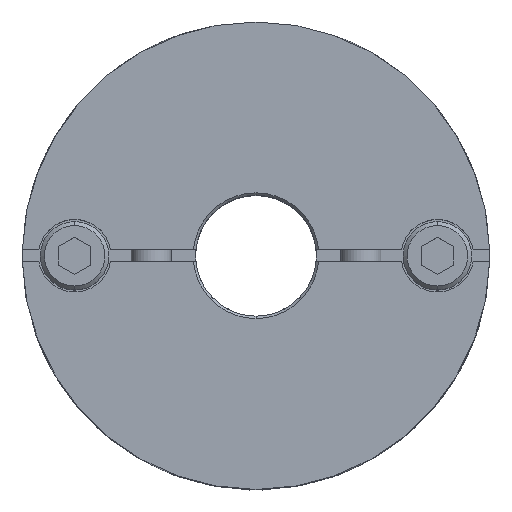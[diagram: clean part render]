
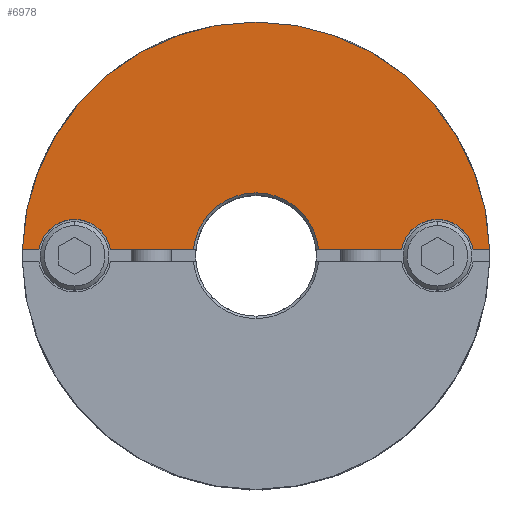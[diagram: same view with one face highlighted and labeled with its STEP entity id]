
A CAD part, top view. The second image highlights one B-rep face of the part: STEP entity #6978.
In plain terms, the highlighted planar face has unit normal (0, 0, 1).
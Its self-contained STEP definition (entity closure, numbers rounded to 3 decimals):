
#605=CARTESIAN_POINT('',(0.,29.,22.4));
#606=VERTEX_POINT('',#605);
#690=CARTESIAN_POINT('',(-28.99,0.75,22.4));
#691=VERTEX_POINT('',#690);
#698=CARTESIAN_POINT('',(0.0,0.,22.4));
#699=DIRECTION('',(0.0,0.0,-1.0));
#700=DIRECTION('',(0.0,1.0,0.0));
#701=AXIS2_PLACEMENT_3D('',#698,#699,#700);
#702=CIRCLE('',#701,29.0);
#703=EDGE_CURVE('',#691,#606,#702,.T.);
#1021=CARTESIAN_POINT('',(0.,7.8,22.4));
#1022=VERTEX_POINT('',#1021);
#1029=CARTESIAN_POINT('',(-7.764,0.75,22.4));
#1030=VERTEX_POINT('',#1029);
#1031=CARTESIAN_POINT('',(0.0,0.,22.4));
#1032=DIRECTION('',(0.0,0.0,1.0));
#1033=DIRECTION('',(0.0,-1.0,0.0));
#1034=AXIS2_PLACEMENT_3D('',#1031,#1032,#1033);
#1035=CIRCLE('',#1034,7.8);
#1036=EDGE_CURVE('',#1022,#1030,#1035,.T.);
#1099=CARTESIAN_POINT('',(-22.5,4.5,22.4));
#1100=VERTEX_POINT('',#1099);
#1109=CARTESIAN_POINT('',(-26.937,0.75,22.4));
#1110=VERTEX_POINT('',#1109);
#1111=CARTESIAN_POINT('',(-22.5,0.,22.4));
#1112=DIRECTION('',(0.0,0.0,-1.0));
#1113=DIRECTION('',(0.0,1.0,0.0));
#1114=AXIS2_PLACEMENT_3D('',#1111,#1112,#1113);
#1115=CIRCLE('',#1114,4.5);
#1116=EDGE_CURVE('',#1110,#1100,#1115,.T.);
#1183=CARTESIAN_POINT('',(22.5,4.5,22.4));
#1184=VERTEX_POINT('',#1183);
#1193=CARTESIAN_POINT('',(18.063,0.75,22.4));
#1194=VERTEX_POINT('',#1193);
#1195=CARTESIAN_POINT('',(22.5,0.,22.4));
#1196=DIRECTION('',(0.0,0.0,-1.0));
#1197=DIRECTION('',(0.0,1.0,0.0));
#1198=AXIS2_PLACEMENT_3D('',#1195,#1196,#1197);
#1199=CIRCLE('',#1198,4.5);
#1200=EDGE_CURVE('',#1194,#1184,#1199,.T.);
#6654=CARTESIAN_POINT('',(26.937,0.75,22.4));
#6655=VERTEX_POINT('',#6654);
#6662=CARTESIAN_POINT('',(22.5,0.,22.4));
#6663=DIRECTION('',(0.0,0.0,-1.0));
#6664=DIRECTION('',(0.0,1.0,0.0));
#6665=AXIS2_PLACEMENT_3D('',#6662,#6663,#6664);
#6666=CIRCLE('',#6665,4.5);
#6667=EDGE_CURVE('',#1184,#6655,#6666,.T.);
#6720=CARTESIAN_POINT('',(-18.063,0.75,22.4));
#6721=VERTEX_POINT('',#6720);
#6728=CARTESIAN_POINT('',(-22.5,0.,22.4));
#6729=DIRECTION('',(0.0,0.0,-1.0));
#6730=DIRECTION('',(0.0,1.0,0.0));
#6731=AXIS2_PLACEMENT_3D('',#6728,#6729,#6730);
#6732=CIRCLE('',#6731,4.5);
#6733=EDGE_CURVE('',#1100,#6721,#6732,.T.);
#6752=CARTESIAN_POINT('',(28.99,0.75,22.4));
#6753=VERTEX_POINT('',#6752);
#6760=CARTESIAN_POINT('',(26.937,0.75,22.4));
#6761=DIRECTION('',(1.0,0.0,0.0));
#6762=VECTOR('',#6761,2.053);
#6763=LINE('',#6760,#6762);
#6764=EDGE_CURVE('',#6655,#6753,#6763,.T.);
#6775=CARTESIAN_POINT('',(7.764,0.75,22.4));
#6776=VERTEX_POINT('',#6775);
#6777=CARTESIAN_POINT('',(7.764,0.75,22.4));
#6778=DIRECTION('',(1.0,0.0,0.0));
#6779=VECTOR('',#6778,10.299);
#6780=LINE('',#6777,#6779);
#6781=EDGE_CURVE('',#6776,#1194,#6780,.T.);
#6937=CARTESIAN_POINT('',(0.,2.636,22.4));
#6938=DIRECTION('',(0.0,0.0,1.0));
#6939=DIRECTION('',(0.0,1.0,0.0));
#6940=AXIS2_PLACEMENT_3D('',#6937,#6938,#6939);
#6941=PLANE('',#6940);
#6942=ORIENTED_EDGE('',*,*,#1200,.T.);
#6943=ORIENTED_EDGE('',*,*,#6667,.T.);
#6944=ORIENTED_EDGE('',*,*,#6764,.T.);
#6945=CARTESIAN_POINT('',(0.0,0.,22.4));
#6946=DIRECTION('',(0.0,0.0,-1.0));
#6947=DIRECTION('',(0.0,1.0,0.0));
#6948=AXIS2_PLACEMENT_3D('',#6945,#6946,#6947);
#6949=CIRCLE('',#6948,29.0);
#6950=EDGE_CURVE('',#606,#6753,#6949,.T.);
#6951=ORIENTED_EDGE('',*,*,#6950,.F.);
#6952=ORIENTED_EDGE('',*,*,#703,.F.);
#6953=CARTESIAN_POINT('',(-28.99,0.75,22.4));
#6954=DIRECTION('',(1.0,0.0,0.0));
#6955=VECTOR('',#6954,2.053);
#6956=LINE('',#6953,#6955);
#6957=EDGE_CURVE('',#691,#1110,#6956,.T.);
#6958=ORIENTED_EDGE('',*,*,#6957,.T.);
#6959=ORIENTED_EDGE('',*,*,#1116,.T.);
#6960=ORIENTED_EDGE('',*,*,#6733,.T.);
#6961=CARTESIAN_POINT('',(-18.063,0.75,22.4));
#6962=DIRECTION('',(1.0,0.0,0.0));
#6963=VECTOR('',#6962,10.299);
#6964=LINE('',#6961,#6963);
#6965=EDGE_CURVE('',#6721,#1030,#6964,.T.);
#6966=ORIENTED_EDGE('',*,*,#6965,.T.);
#6967=ORIENTED_EDGE('',*,*,#1036,.F.);
#6968=CARTESIAN_POINT('',(0.0,0.,22.4));
#6969=DIRECTION('',(0.0,0.0,1.0));
#6970=DIRECTION('',(0.0,-1.0,0.0));
#6971=AXIS2_PLACEMENT_3D('',#6968,#6969,#6970);
#6972=CIRCLE('',#6971,7.8);
#6973=EDGE_CURVE('',#6776,#1022,#6972,.T.);
#6974=ORIENTED_EDGE('',*,*,#6973,.F.);
#6975=ORIENTED_EDGE('',*,*,#6781,.T.);
#6976=EDGE_LOOP('',(#6942,#6943,#6944,#6951,#6952,#6958,#6959,#6960,#6966,#6967,#6974,#6975));
#6977=FACE_OUTER_BOUND('',#6976,.T.);
#6978=ADVANCED_FACE('',(#6977),#6941,.T.);
